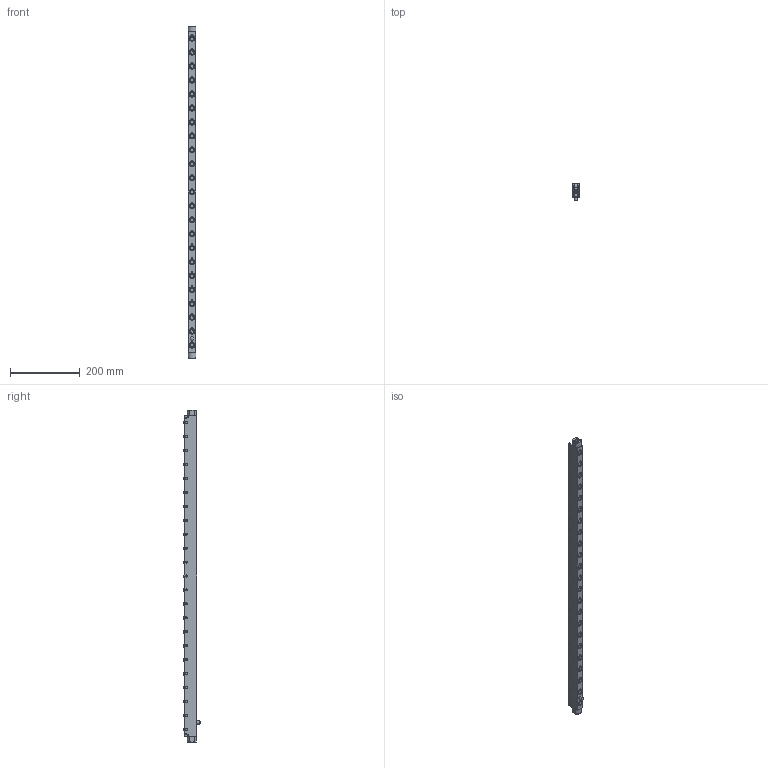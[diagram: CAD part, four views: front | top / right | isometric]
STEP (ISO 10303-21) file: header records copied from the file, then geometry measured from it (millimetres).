
FILE_DESCRIPTION(/* description */ (''),/* implementation_level */ '2;1');
FILE_NAME(/* name */ 'S:\EASCN Vault\Designs\Standard Part\DIE LIFTERS\EHR\EHR- 3D step\EHR22-C - 3D step complete serie\EHR22-23-C.stp',/* time_stamp */ '2019-09-06T13:42:09+08:00',/* author */ ('yue.yang'),/* organization */ (''),/* preprocessor_version */ 'ST-DEVELOPER v17',/* originating_system */ 'Autodesk Inventor 2019',/* authorisation */ '');
FILE_SCHEMA (('AUTOMOTIVE_DESIGN { 1 0 10303 214 3 1 1 }'));
Products named in the file (1): EHR22-23-C_Shrinkwrap_1
Bounding box: 21.8 x 48.05 x 952 mm (x, y, z)
Volume: 576698.1 mm3; surface area: 221266.6 mm2
Topology: 10 solids, 10 shells, 1361 faces, 4055 edges, 2792 vertices
Faces by surface type: cylinder 465, plane 352, cone 260, torus 234, sphere 47, bspline 3
Full cylindrical faces by diameter (mm): 3 x10, 3.2 x8, 4 x8, 5 x92, 6 x32, 8.566 x2, 10 x3, 11 x23, 12.5 x46, 13.4 x24, 13.8 x23, 15.95 x46, 16 x50
Entity records: 51924 total; most frequent: CARTESIAN_POINT 11983, DIRECTION 8875, ORIENTED_EDGE 8048, EDGE_CURVE 4024, AXIS2_PLACEMENT_3D 3952, VERTEX_POINT 2792, CIRCLE 2590, EDGE_LOOP 1650
